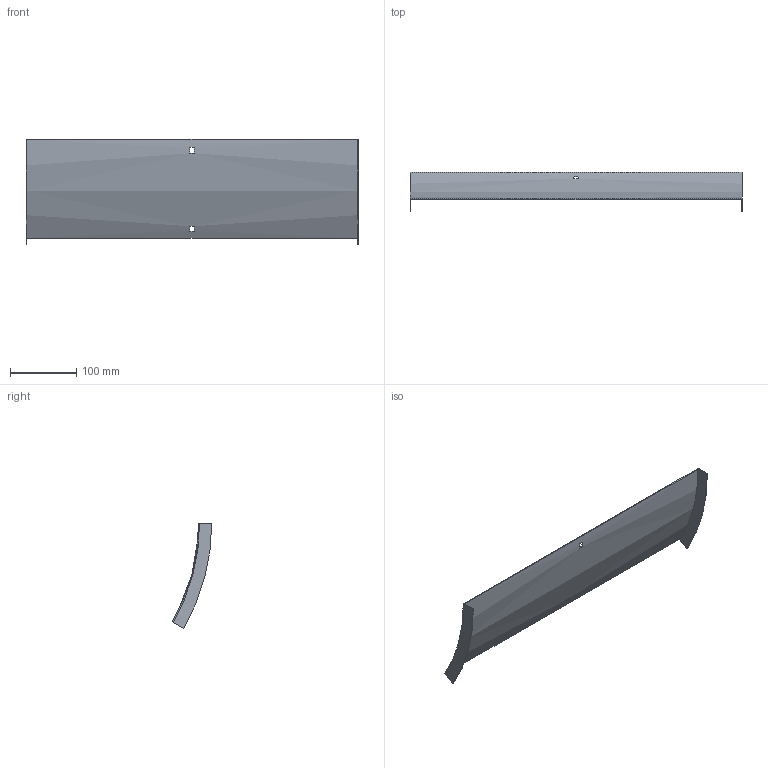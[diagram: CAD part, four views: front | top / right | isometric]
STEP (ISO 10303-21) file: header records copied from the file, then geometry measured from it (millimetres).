
FILE_DESCRIPTION (( 'STEP AP214' ), '1' );
FILE_NAME ('B2X32N3R500X.step', '2025-03-20T09:40:04', ( '' ), ( '' ), 'SwSTEP 2.0', 'SolidWorks 2023', '' );
FILE_SCHEMA (( 'AUTOMOTIVE_DESIGN' ));
Length unit declared in the file: millimetre
Products named in the file (1): B2X32N3R500X
Bounding box: 503 x 59.99 x 159.25 mm (x, y, z)
Volume: 127031.2 mm3; surface area: 171587.3 mm2
Topology: 1 solids, 1 shells, 18 faces, 48 edges, 32 vertices
Faces by surface type: plane 14, cylinder 4
Entity records: 599 total; most frequent: DIRECTION 102, CARTESIAN_POINT 99, ORIENTED_EDGE 96, EDGE_CURVE 48, AXIS2_PLACEMENT_3D 35, LINE 32, VERTEX_POINT 32, VECTOR 32
